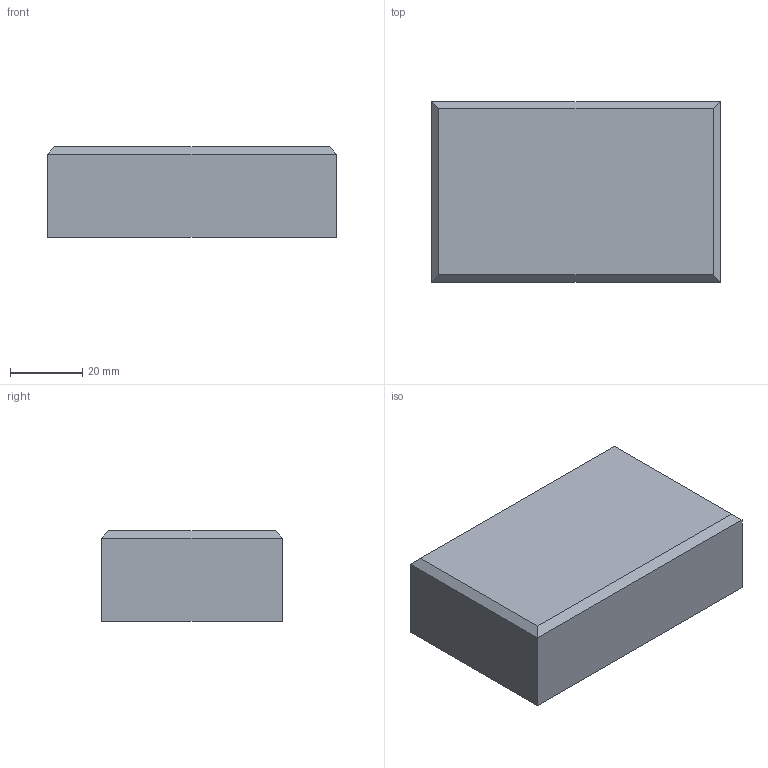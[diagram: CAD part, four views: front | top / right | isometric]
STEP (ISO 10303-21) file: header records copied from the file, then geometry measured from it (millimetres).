
FILE_DESCRIPTION(('Open CASCADE Model'),'2;1');
FILE_NAME('Open CASCADE Shape Model','2026-03-24T09:37:59',('Author'),( 'Open CASCADE'),'Open CASCADE STEP processor 7.8','Open CASCADE 7.8' ,'Unknown');
FILE_SCHEMA(('AUTOMOTIVE_DESIGN { 1 0 10303 214 1 1 1 1 }'));
Length unit declared in the file: millimetre
Products named in the file (1): Open CASCADE STEP translator 7.8 2
Bounding box: 80 x 50 x 25 mm (x, y, z)
Volume: 99490.7 mm3; surface area: 14188.8 mm2
Topology: 1 solids, 1 shells, 10 faces, 20 edges, 12 vertices
Faces by surface type: plane 10
Entity records: 522 total; most frequent: CARTESIAN_POINT 83, DIRECTION 82, LINE 60, VECTOR 60, ORIENTED_EDGE 40, PCURVE 40, DEFINITIONAL_REPRESENTATION 40, EDGE_CURVE 20
